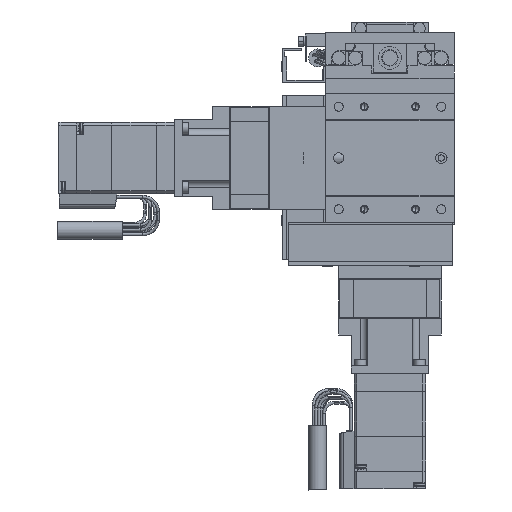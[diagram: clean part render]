
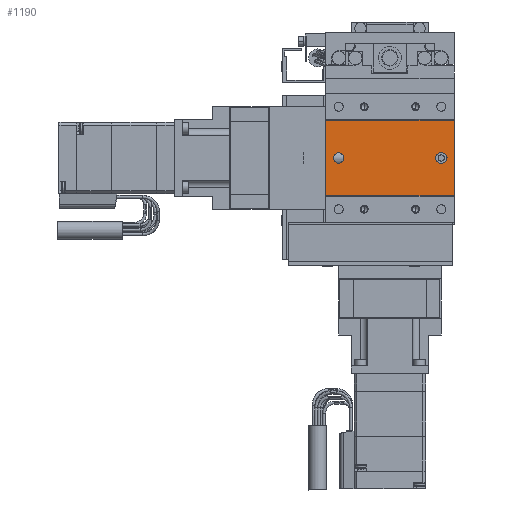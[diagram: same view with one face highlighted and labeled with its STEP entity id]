
A CAD part, front view. The second image highlights one B-rep face of the part: STEP entity #1190.
In plain terms, the highlighted planar face has unit normal (0, -1, 0).
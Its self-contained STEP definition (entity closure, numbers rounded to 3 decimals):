
#1190=ADVANCED_FACE('',(#3836,#3837,#3838),#3839,.F.);
#3836=FACE_BOUND('',#8874,.T.);
#3837=FACE_OUTER_BOUND('',#8875,.T.);
#3838=FACE_BOUND('',#8876,.T.);
#3839=PLANE('',#8877);
#8874=EDGE_LOOP('',(#15381,#15382,#15383,#15384));
#8875=EDGE_LOOP('',(#15385,#15386,#15387,#15388));
#8876=EDGE_LOOP('',(#15389,#15390,#15391));
#8877=AXIS2_PLACEMENT_3D('',#15392,#15393,#15394);
#15381=ORIENTED_EDGE('',*,*,#33384,.F.);
#15382=ORIENTED_EDGE('',*,*,#33385,.F.);
#15383=ORIENTED_EDGE('',*,*,#33386,.F.);
#15384=ORIENTED_EDGE('',*,*,#33387,.F.);
#15385=ORIENTED_EDGE('',*,*,#33369,.T.);
#15386=ORIENTED_EDGE('',*,*,#33388,.F.);
#15387=ORIENTED_EDGE('',*,*,#33389,.F.);
#15388=ORIENTED_EDGE('',*,*,#33390,.T.);
#15389=ORIENTED_EDGE('',*,*,#33274,.F.);
#15390=ORIENTED_EDGE('',*,*,#33273,.F.);
#15391=ORIENTED_EDGE('',*,*,#33391,.F.);
#15392=CARTESIAN_POINT('',(-25.,0.35,-14.65));
#15393=DIRECTION('',(0.,1.0,0.));
#15394=DIRECTION('',(-1.0,0.,0.));
#33273=EDGE_CURVE('',#39758,#39760,#39761,.F.);
#33274=EDGE_CURVE('',#39760,#39754,#39762,.F.);
#33369=EDGE_CURVE('',#39939,#39937,#39940,.T.);
#33384=EDGE_CURVE('',#39967,#39968,#39969,.F.);
#33385=EDGE_CURVE('',#39970,#39967,#39971,.T.);
#33386=EDGE_CURVE('',#39972,#39970,#39973,.F.);
#33387=EDGE_CURVE('',#39968,#39972,#39974,.T.);
#33388=EDGE_CURVE('',#39975,#39937,#39976,.T.);
#33389=EDGE_CURVE('',#39977,#39975,#39978,.T.);
#33390=EDGE_CURVE('',#39977,#39939,#39979,.T.);
#33391=EDGE_CURVE('',#39754,#39758,#39980,.F.);
#39754=VERTEX_POINT('',#50154);
#39758=VERTEX_POINT('',#50159);
#39760=VERTEX_POINT('',#50162);
#39761=CIRCLE('',#50163,2.0);
#39762=CIRCLE('',#50164,2.0);
#39937=VERTEX_POINT('',#50393);
#39939=VERTEX_POINT('',#50396);
#39940=LINE('',#50397,#50398);
#39967=VERTEX_POINT('',#50438);
#39968=VERTEX_POINT('',#50439);
#39969=CIRCLE('',#50440,2.0);
#39970=VERTEX_POINT('',#50441);
#39971=LINE('',#50442,#50443);
#39972=VERTEX_POINT('',#50444);
#39973=CIRCLE('',#50445,2.0);
#39974=LINE('',#50446,#50447);
#39975=VERTEX_POINT('',#50448);
#39976=LINE('',#50449,#50450);
#39977=VERTEX_POINT('',#50451);
#39978=LINE('',#50452,#50453);
#39979=LINE('',#50454,#50455);
#39980=CIRCLE('',#50456,2.0);
#50154=CARTESIAN_POINT('',(-18.0,0.35,0.));
#50159=CARTESIAN_POINT('',(-22.0,0.35,0.));
#50162=CARTESIAN_POINT('',(-20.,0.35,-2.));
#50163=AXIS2_PLACEMENT_3D('',#64502,#64503,#64504);
#50164=AXIS2_PLACEMENT_3D('',#64505,#64506,#64507);
#50393=CARTESIAN_POINT('',(25.,0.35,14.65));
#50396=CARTESIAN_POINT('',(25.,0.35,-14.65));
#50397=CARTESIAN_POINT('',(25.,0.35,-14.65));
#50398=VECTOR('',#64680,1000.0);
#50438=CARTESIAN_POINT('',(20.25,0.35,-2.));
#50439=CARTESIAN_POINT('',(20.25,0.35,2.));
#50440=AXIS2_PLACEMENT_3D('',#64697,#64698,#64699);
#50441=CARTESIAN_POINT('',(19.75,0.35,-2.));
#50442=CARTESIAN_POINT('',(-25.,0.35,-2.));
#50443=VECTOR('',#64700,1000.0);
#50444=CARTESIAN_POINT('',(19.75,0.35,2.));
#50445=AXIS2_PLACEMENT_3D('',#64701,#64702,#64703);
#50446=CARTESIAN_POINT('',(-25.,0.35,2.));
#50447=VECTOR('',#64704,1000.0);
#50448=CARTESIAN_POINT('',(-25.,0.35,14.65));
#50449=CARTESIAN_POINT('',(-25.,0.35,14.65));
#50450=VECTOR('',#64705,1000.0);
#50451=CARTESIAN_POINT('',(-25.,0.35,-14.65));
#50452=CARTESIAN_POINT('',(-25.,0.35,-14.65));
#50453=VECTOR('',#64706,1000.0);
#50454=CARTESIAN_POINT('',(-25.,0.35,-14.65));
#50455=VECTOR('',#64707,1000.0);
#50456=AXIS2_PLACEMENT_3D('',#64708,#64709,#64710);
#64502=CARTESIAN_POINT('',(-20.0,0.35,0.));
#64503=DIRECTION('',(0.,1.0,0.));
#64504=DIRECTION('',(0.,0.,-1.0));
#64505=CARTESIAN_POINT('',(-20.0,0.35,0.));
#64506=DIRECTION('',(0.,1.0,0.));
#64507=DIRECTION('',(0.,0.,-1.0));
#64680=DIRECTION('',(0.,0.,1.0));
#64697=CARTESIAN_POINT('',(20.25,0.35,0.));
#64698=DIRECTION('',(0.,1.0,0.));
#64699=DIRECTION('',(0.,0.,-1.0));
#64700=DIRECTION('',(1.0,0.,0.));
#64701=CARTESIAN_POINT('',(19.75,0.35,0.));
#64702=DIRECTION('',(0.,1.0,0.));
#64703=DIRECTION('',(0.,0.,-1.0));
#64704=DIRECTION('',(-1.0,0.,0.));
#64705=DIRECTION('',(1.0,0.,0.));
#64706=DIRECTION('',(0.,0.,1.0));
#64707=DIRECTION('',(1.0,0.,0.));
#64708=CARTESIAN_POINT('',(-20.0,0.35,0.));
#64709=DIRECTION('',(0.,1.0,0.));
#64710=DIRECTION('',(0.,0.,-1.0));
